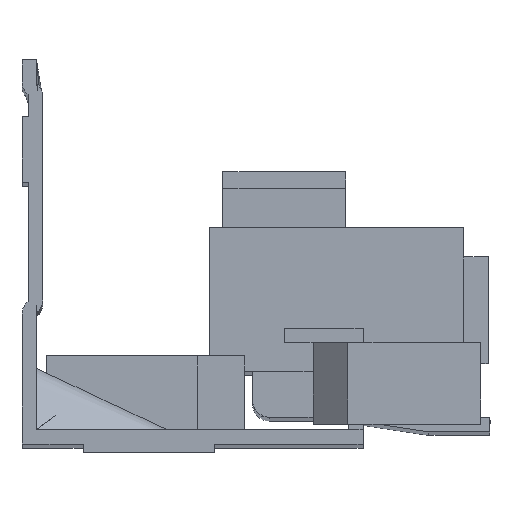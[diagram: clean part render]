
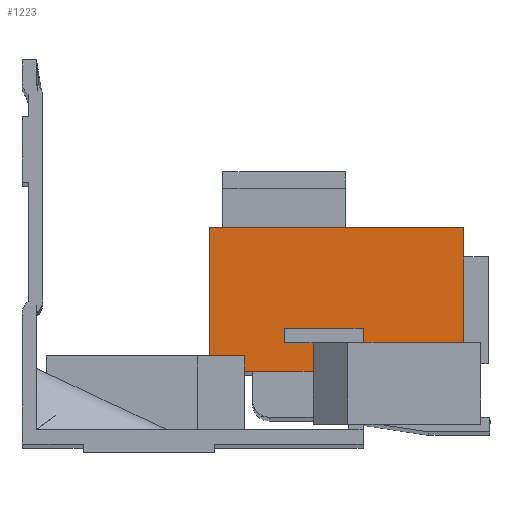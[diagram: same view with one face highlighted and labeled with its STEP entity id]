
A CAD part, front view. The second image highlights one B-rep face of the part: STEP entity #1223.
In plain terms, the highlighted planar face has unit normal (0, -1, 0).
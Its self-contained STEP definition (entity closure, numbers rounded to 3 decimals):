
#586 = LINE ( 'NONE', #4252, #587 ) ;
#587 = VECTOR ( 'NONE', #4253, 1000. ) ;
#644 = LINE ( 'NONE', #4310, #645 ) ;
#645 = VECTOR ( 'NONE', #4311, 1000. ) ;
#797 = LINE ( 'NONE', #4475, #798 ) ;
#798 = VECTOR ( 'NONE', #4476, 1000. ) ;
#853 = LINE ( 'NONE', #4537, #854 ) ;
#854 = VECTOR ( 'NONE', #4538, 1000. ) ;
#867 = LINE ( 'NONE', #4551, #868 ) ;
#868 = VECTOR ( 'NONE', #4552, 1000. ) ;
#869 = LINE ( 'NONE', #4553, #870 ) ;
#870 = VECTOR ( 'NONE', #4554, 1000. ) ;
#871 = LINE ( 'NONE', #4555, #872 ) ;
#872 = VECTOR ( 'NONE', #4556, 1000. ) ;
#873 = LINE ( 'NONE', #4557, #874 ) ;
#874 = VECTOR ( 'NONE', #4558, 1000. ) ;
#875 = LINE ( 'NONE', #4559, #876 ) ;
#876 = VECTOR ( 'NONE', #4560, 1000. ) ;
#877 = LINE ( 'NONE', #4561, #878 ) ;
#878 = VECTOR ( 'NONE', #4562, 1000. ) ;
#879 = LINE ( 'NONE', #4563, #880 ) ;
#880 = VECTOR ( 'NONE', #4564, 1000. ) ;
#881 = LINE ( 'NONE', #4565, #882 ) ;
#882 = VECTOR ( 'NONE', #4566, 1000. ) ;
#1223 = ADVANCED_FACE ( 'NONE', ( #1980 ), #3909, .F. ) ;
#1342 = AXIS2_PLACEMENT_3D ( 'NONE', #3910, #3911, #3912 ) ;
#1509 = EDGE_CURVE ( 'NONE', #4977, #4945, #586, .T. ) ;
#1540 = EDGE_CURVE ( 'NONE', #4945, #5066, #644, .T. ) ;
#1619 = EDGE_CURVE ( 'NONE', #4962, #5066, #797, .T. ) ;
#1648 = EDGE_CURVE ( 'NONE', #4872, #4962, #853, .T. ) ;
#1655 = EDGE_CURVE ( 'NONE', #4952, #4948, #867, .T. ) ;
#1656 = EDGE_CURVE ( 'NONE', #4992, #4952, #869, .T. ) ;
#1657 = EDGE_CURVE ( 'NONE', #4992, #4968, #871, .T. ) ;
#1658 = EDGE_CURVE ( 'NONE', #4968, #4954, #873, .T. ) ;
#1659 = EDGE_CURVE ( 'NONE', #4954, #4872, #875, .T. ) ;
#1660 = EDGE_CURVE ( 'NONE', #4947, #4977, #877, .T. ) ;
#1661 = EDGE_CURVE ( 'NONE', #4991, #4947, #879, .T. ) ;
#1662 = EDGE_CURVE ( 'NONE', #4948, #4991, #881, .T. ) ;
#1980 = FACE_OUTER_BOUND ( 'NONE', #2648, .T. ) ;
#2242 = CARTESIAN_POINT ( 'NONE',  ( 41.6, -20., -21.858 ) ) ;
#2315 = CARTESIAN_POINT ( 'NONE',  ( 53.9, -20., -9.558 ) ) ;
#2317 = CARTESIAN_POINT ( 'NONE',  ( 22.9, -20., -25.181 ) ) ;
#2318 = CARTESIAN_POINT ( 'NONE',  ( 27.15, -20., -27.058 ) ) ;
#2322 = CARTESIAN_POINT ( 'NONE',  ( 35.5, -20., -27.058 ) ) ;
#2324 = CARTESIAN_POINT ( 'NONE',  ( 32., -20., -21.858 ) ) ;
#2332 = CARTESIAN_POINT ( 'NONE',  ( 41.6, -20., -23.558 ) ) ;
#2338 = CARTESIAN_POINT ( 'NONE',  ( 32., -20., -23.608 ) ) ;
#2347 = CARTESIAN_POINT ( 'NONE',  ( 22.9, -20., -9.558 ) ) ;
#2361 = CARTESIAN_POINT ( 'NONE',  ( 27.15, -20., -25.181 ) ) ;
#2362 = CARTESIAN_POINT ( 'NONE',  ( 35.5, -20., -23.608 ) ) ;
#2436 = CARTESIAN_POINT ( 'NONE',  ( 53.9, -20., -23.558 ) ) ;
#2648 = EDGE_LOOP ( 'NONE', ( #2724, #2725, #2726, #2727, #2728, #2729, #2730, #2731, #2732, #2733, #2734, #2735 ) ) ;
#2724 = ORIENTED_EDGE ( 'NONE', *, *, #1655, .F. ) ;
#2725 = ORIENTED_EDGE ( 'NONE', *, *, #1656, .F. ) ;
#2726 = ORIENTED_EDGE ( 'NONE', *, *, #1657, .T. ) ;
#2727 = ORIENTED_EDGE ( 'NONE', *, *, #1658, .T. ) ;
#2728 = ORIENTED_EDGE ( 'NONE', *, *, #1659, .T. ) ;
#2729 = ORIENTED_EDGE ( 'NONE', *, *, #1648, .T. ) ;
#2730 = ORIENTED_EDGE ( 'NONE', *, *, #1619, .T. ) ;
#2731 = ORIENTED_EDGE ( 'NONE', *, *, #1540, .F. ) ;
#2732 = ORIENTED_EDGE ( 'NONE', *, *, #1509, .F. ) ;
#2733 = ORIENTED_EDGE ( 'NONE', *, *, #1660, .F. ) ;
#2734 = ORIENTED_EDGE ( 'NONE', *, *, #1661, .F. ) ;
#2735 = ORIENTED_EDGE ( 'NONE', *, *, #1662, .F. ) ;
#3909 = PLANE ( 'NONE',  #1342 ) ;
#3910 = CARTESIAN_POINT ( 'NONE',  ( 49.9, -20., -27.058 ) ) ;
#3911 = DIRECTION ( 'NONE',  ( 0., 1., 0. ) ) ;
#3912 = DIRECTION ( 'NONE',  ( 1., 0., 0. ) ) ;
#4252 = CARTESIAN_POINT ( 'NONE',  ( 53.9, -20., -9.558 ) ) ;
#4253 = DIRECTION ( 'NONE',  ( 1., 0., 0. ) ) ;
#4310 = CARTESIAN_POINT ( 'NONE',  ( 53.9, -20., -29.558 ) ) ;
#4311 = DIRECTION ( 'NONE',  ( 0., 0., -1. ) ) ;
#4475 = CARTESIAN_POINT ( 'NONE',  ( 49.9, -20., -23.558 ) ) ;
#4476 = DIRECTION ( 'NONE',  ( 1., 0., 0. ) ) ;
#4537 = CARTESIAN_POINT ( 'NONE',  ( 41.6, -20., -35.931 ) ) ;
#4538 = DIRECTION ( 'NONE',  ( 0., 0., -1. ) ) ;
#4551 = CARTESIAN_POINT ( 'NONE',  ( 49.9, -20., -27.058 ) ) ;
#4552 = DIRECTION ( 'NONE',  ( -1., 0., 0. ) ) ;
#4553 = CARTESIAN_POINT ( 'NONE',  ( 35.5, -20., -27.058 ) ) ;
#4554 = DIRECTION ( 'NONE',  ( 0., 0., -1. ) ) ;
#4555 = CARTESIAN_POINT ( 'NONE',  ( 32., -20., -23.608 ) ) ;
#4556 = DIRECTION ( 'NONE',  ( -1., 0., 0. ) ) ;
#4557 = CARTESIAN_POINT ( 'NONE',  ( 32., -20., -21.831 ) ) ;
#4558 = DIRECTION ( 'NONE',  ( 0., 0., 1. ) ) ;
#4559 = CARTESIAN_POINT ( 'NONE',  ( 41.6, -20., -21.858 ) ) ;
#4560 = DIRECTION ( 'NONE',  ( 1., 0., 0. ) ) ;
#4561 = CARTESIAN_POINT ( 'NONE',  ( 22.9, -20., -27.058 ) ) ;
#4562 = DIRECTION ( 'NONE',  ( 0., 0., 1. ) ) ;
#4563 = CARTESIAN_POINT ( 'NONE',  ( 49.9, -20., -25.181 ) ) ;
#4564 = DIRECTION ( 'NONE',  ( -1., 0., 0. ) ) ;
#4565 = CARTESIAN_POINT ( 'NONE',  ( 27.15, -20., -27.058 ) ) ;
#4566 = DIRECTION ( 'NONE',  ( 0., 0., 1. ) ) ;
#4872 = VERTEX_POINT ( 'NONE', #2242 ) ;
#4945 = VERTEX_POINT ( 'NONE', #2315 ) ;
#4947 = VERTEX_POINT ( 'NONE', #2317 ) ;
#4948 = VERTEX_POINT ( 'NONE', #2318 ) ;
#4952 = VERTEX_POINT ( 'NONE', #2322 ) ;
#4954 = VERTEX_POINT ( 'NONE', #2324 ) ;
#4962 = VERTEX_POINT ( 'NONE', #2332 ) ;
#4968 = VERTEX_POINT ( 'NONE', #2338 ) ;
#4977 = VERTEX_POINT ( 'NONE', #2347 ) ;
#4991 = VERTEX_POINT ( 'NONE', #2361 ) ;
#4992 = VERTEX_POINT ( 'NONE', #2362 ) ;
#5066 = VERTEX_POINT ( 'NONE', #2436 ) ;
